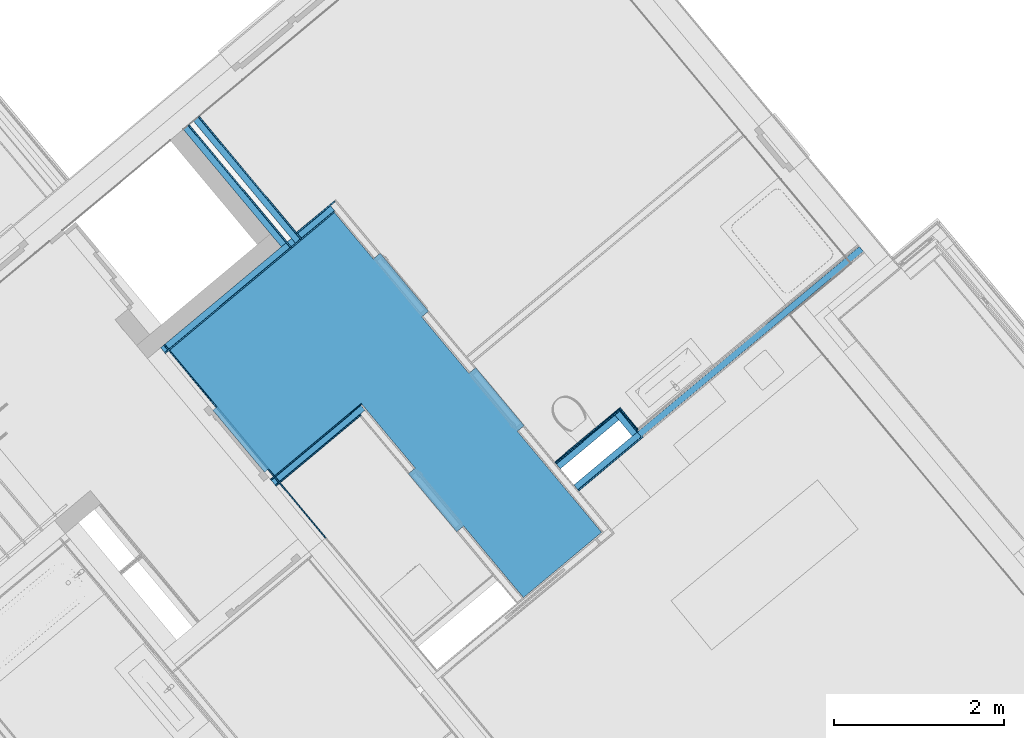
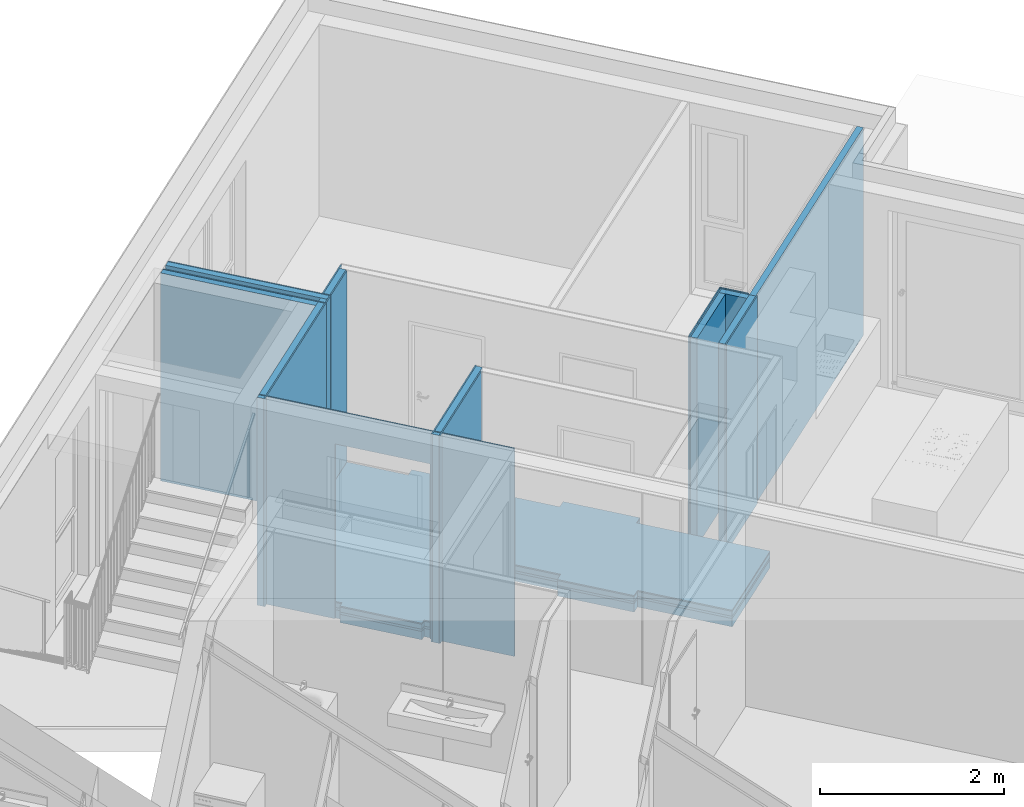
# One storey, part 33 of 50: 28 building element parts, 1 opening, 12 elements without a shape of their own.
"""IFC4 building model written with IfcOpenShell, lengths in metres."""

from ifc_helpers import new_model, entity, si_unit, converted_unit, derived_unit, direction, frame, origin_with_axes, place, context, subcontext, project, spatial, polygons, material, type_object, element, aggregate, save


model = new_model("IFC4")

# Units and contexts
model_context = context("Model", 3, precision=1e-05, world=origin_with_axes(), true_north=direction((0.0, 1.0)))
body_context = subcontext(model_context, "Body", "Model", "MODEL_VIEW")
ifc_project = project(units=[si_unit("LENGTHUNIT", "METRE"), si_unit("AREAUNIT", "SQUARE_METRE"), si_unit("VOLUMEUNIT", "CUBIC_METRE"), converted_unit("PLANEANGLEUNIT", "DEGREE", entity("IfcPlaneAngleMeasure", 0.0174532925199), si_unit("PLANEANGLEUNIT", "RADIAN"), dimensions=[0, 0, 0, 0, 0, 0, 0]), converted_unit("TIMEUNIT", "Year", entity("IfcTimeMeasure", 31556926.0), si_unit("TIMEUNIT", "SECOND"), dimensions=[0, 0, 1, 0, 0, 0, 0]), si_unit("MASSUNIT", "GRAM", prefix="KILO"), si_unit("THERMODYNAMICTEMPERATUREUNIT", "DEGREE_CELSIUS"), si_unit("LUMINOUSINTENSITYUNIT", "LUMEN"), si_unit("ENERGYUNIT", "JOULE", prefix="MEGA"), derived_unit("THERMALCONDUCTANCEUNIT", [(si_unit("POWERUNIT", "WATT"), 1), (si_unit("LENGTHUNIT", "METRE"), -1), (si_unit("THERMODYNAMICTEMPERATUREUNIT", "KELVIN"), -1)]), derived_unit("SPECIFICHEATCAPACITYUNIT", [(si_unit("ENERGYUNIT", "JOULE"), 1), (si_unit("MASSUNIT", "GRAM", prefix="KILO"), -1), (si_unit("THERMODYNAMICTEMPERATUREUNIT", "KELVIN"), -1)]), derived_unit("MASSDENSITYUNIT", [(si_unit("MASSUNIT", "GRAM", prefix="KILO"), 1), (si_unit("VOLUMEUNIT", "CUBIC_METRE"), -1)])], contexts=[model_context])

# Site, building, storey
site_placement = place(None, frame((-0.00153261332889, -0.00661245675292, 0.0), z_axis=(0.0, 0.0, 1.0), x_axis=(1.0, 0.0, 0.0)))
site = spatial("IfcSite", under=ifc_project, at=site_placement, Name="Site", CompositionType="ELEMENT")
building_placement = place(site_placement, origin_with_axes())
building = spatial("IfcBuilding", under=site, at=building_placement, Name="Building", CompositionType="ELEMENT")
storey_placement = place(building_placement, frame((0.0, 0.0, 2.74), z_axis=(0.0, 0.0, 1.0), x_axis=(1.0, 0.0, 0.0)))
storey = spatial("IfcBuildingStorey", under=building, at=storey_placement, Name="OG1", CompositionType="ELEMENT", Elevation=2.74)

# Wall, building element parts
wall_type_1 = type_object("IfcWallType", Name="LB 10,5 cm doppelte Vorsatzschale Bad 105", PredefinedType="NOTDEFINED")
wall_1_placement = place(storey_placement, frame((6.81308887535, 23.8632838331, 0.0), z_axis=(0.0, 0.0, 1.0), x_axis=(0.639370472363, -0.768898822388, 0.0)))
wall_1 = element("IfcWall", 1, at=wall_1_placement, inside=storey, type_object=wall_type_1, Name="Wand-004", PredefinedType="NOTDEFINED")
ifc_material_1 = material(Name="Gipskarton")
building_element_part_1_placement = place(wall_1_placement, origin_with_axes())
building_element_part_1 = element("IfcBuildingElementPart", 2, at=building_element_part_1_placement, material=ifc_material_1, Name="Gipskarton", PredefinedType="NOTDEFINED", context=body_context, shape_type="Tessellation", body=[
    polygons([(0.338014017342, 0.09, 0.0), (0.0, 0.09, 0.0), (0.0, 0.105, 0.0), (0.337978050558, 0.105, 0.0), (0.338014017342, 0.09, 2.76), (0.0, 0.09, 2.76), (0.0, 0.105, 2.76), (0.337978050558, 0.105, 2.76)], [[[1, 2, 3, 4]], [[5, 6, 2, 1]], [[3, 2, 6, 7]], [[4, 3, 7, 8]], [[4, 8, 5, 1]], [[8, 7, 6, 5]]], closed=True),
])
building_element_part_2_placement = place(wall_1_placement, origin_with_axes())
building_element_part_2 = element("IfcBuildingElementPart", 3, at=building_element_part_2_placement, material=ifc_material_1, Name="Gipskarton", PredefinedType="NOTDEFINED", context=body_context, shape_type="Tessellation", body=[
    polygons([(0.353050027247, 0.075, 0.0), (0.0, 0.075, 0.0), (0.0, 0.09, 0.0), (0.353014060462, 0.09, 0.0), (0.353050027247, 0.075, 2.76), (0.0, 0.075, 2.76), (0.0, 0.09, 2.76), (0.353014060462, 0.09, 2.76)], [[[1, 2, 3, 4]], [[5, 6, 2, 1]], [[3, 2, 6, 7]], [[4, 3, 7, 8]], [[4, 8, 5, 1]], [[8, 7, 6, 5]]], closed=True),
])
ifc_material_2 = material(Name="Mineralwolle weich")
building_element_part_3_placement = place(wall_1_placement, origin_with_axes())
building_element_part_3 = element("IfcBuildingElementPart", 4, at=building_element_part_3_placement, material=ifc_material_2, Name="Mineralwolle weich", PredefinedType="NOTDEFINED", context=body_context, shape_type="Tessellation", body=[
    polygons([(0.353050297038, 0.075, 0.0), (0.353229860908, 0.0, 0.0), (0.030000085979, 0.0, 0.0), (0.0298205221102, 0.075, 0.0), (0.353050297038, 0.075, 2.76), (0.353229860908, 0.0, 2.76), (0.030000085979, 0.0, 2.76), (0.0298205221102, 0.075, 2.76)], [[[1, 2, 3, 4]], [[2, 1, 5, 6]], [[2, 6, 7, 3]], [[8, 4, 3, 7]], [[5, 1, 4, 8]], [[6, 5, 8, 7]]], closed=True),
])
aggregate(wall_1, [building_element_part_1, building_element_part_2, building_element_part_3])

wall_type_2 = type_object("IfcWallType", Name="IW LB 01 Leichtbautrennwand einfach 10,5 cm 105", PredefinedType="NOTDEFINED")
wall_2_placement = place(storey_placement, frame((3.02017821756, 25.9291230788, 0.0), z_axis=(0.0, 0.0, 1.0), x_axis=(0.767365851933, 0.641209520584, 0.0)))
wall_2 = element("IfcWall", 5, at=wall_2_placement, inside=storey, type_object=wall_type_2, Name="Wand-012", PredefinedType="NOTDEFINED")
building_element_part_4_placement = place(wall_2_placement, origin_with_axes())
building_element_part_4 = element("IfcBuildingElementPart", 6, at=building_element_part_4_placement, material=ifc_material_1, Name="Gipskarton", PredefinedType="NOTDEFINED", context=body_context, shape_type="Tessellation", body=[
    polygons([(0.673687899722, 0.0, 2.76), (0.0900000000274, 0.0, 2.76), (0.0900000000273, -0.015, 2.76), (0.673687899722, -0.015, 2.76), (0.673687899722, 0.0, 0.0), (0.0900000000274, 0.0, 0.0), (0.0900000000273, -0.015, 0.0), (0.673687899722, -0.015, 0.0)], [[[1, 2, 3, 4]], [[5, 6, 2, 1]], [[3, 2, 6, 7]], [[4, 3, 7, 8]], [[4, 8, 5, 1]], [[8, 7, 6, 5]]], closed=True),
])
building_element_part_5_placement = place(wall_2_placement, origin_with_axes())
building_element_part_5 = element("IfcBuildingElementPart", 7, at=building_element_part_5_placement, material=ifc_material_2, Name="Mineralwolle weich", PredefinedType="NOTDEFINED", context=body_context, shape_type="Tessellation", body=[
    polygons([(0.598687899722, -0.015, 2.76), (0.0900000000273, -0.015, 2.76), (0.090000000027, -0.09, 2.76), (0.598687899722, -0.09, 2.76), (0.598687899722, -0.015, 0.0), (0.0900000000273, -0.015, 0.0), (0.090000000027, -0.09, 0.0), (0.598687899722, -0.09, 0.0)], [[[1, 2, 3, 4]], [[5, 6, 2, 1]], [[3, 2, 6, 7]], [[4, 3, 7, 8]], [[4, 8, 5, 1]], [[8, 7, 6, 5]]], closed=True),
])
building_element_part_6_placement = place(wall_2_placement, origin_with_axes())
building_element_part_6 = element("IfcBuildingElementPart", 8, at=building_element_part_6_placement, material=ifc_material_1, Name="Gipskarton", PredefinedType="NOTDEFINED", context=body_context, shape_type="Tessellation", body=[
    polygons([(0.583687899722, -0.09, 2.76), (0.090000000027, -0.09, 2.76), (0.0900000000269, -0.105, 2.76), (0.583687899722, -0.105, 2.76), (0.583687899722, -0.09, 0.0), (0.090000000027, -0.09, 0.0), (0.0900000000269, -0.105, 0.0), (0.583687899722, -0.105, 0.0)], [[[1, 2, 3, 4]], [[5, 6, 2, 1]], [[3, 2, 6, 7]], [[4, 3, 7, 8]], [[4, 8, 5, 1]], [[8, 7, 6, 5]]], closed=True),
])
aggregate(wall_2, [building_element_part_4, building_element_part_5, building_element_part_6])

wall_3_placement = place(storey_placement, frame((2.84969161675, 23.0041117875, 0.0), z_axis=(0.0, 0.0, 1.0), x_axis=(0.767365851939, 0.641209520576, 0.0)))
wall_3 = element("IfcWall", 9, at=wall_3_placement, inside=storey, type_object=wall_type_2, Name="Wand-012", PredefinedType="NOTDEFINED")
building_element_part_7_placement = place(wall_3_placement, origin_with_axes())
building_element_part_7 = element("IfcBuildingElementPart", 10, at=building_element_part_7_placement, material=ifc_material_1, Name="Gipskarton", PredefinedType="NOTDEFINED", context=body_context, shape_type="Tessellation", body=[
    polygons([(1.3909877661, 0.09, 0.0), (0.0, 0.09, 0.0), (0.0, 0.105, 0.0), (1.3909877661, 0.105, 0.0), (1.3909877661, 0.09, 2.76), (0.0, 0.09, 2.76), (0.0, 0.105, 2.76), (1.3909877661, 0.105, 2.76)], [[[1, 2, 3, 4]], [[5, 6, 2, 1]], [[3, 2, 6, 7]], [[4, 3, 7, 8]], [[4, 8, 5, 1]], [[8, 7, 6, 5]]], closed=True),
])
building_element_part_8_placement = place(wall_3_placement, origin_with_axes())
building_element_part_8 = element("IfcBuildingElementPart", 11, at=building_element_part_8_placement, material=ifc_material_2, Name="Mineralwolle weich", PredefinedType="NOTDEFINED", context=body_context, shape_type="Tessellation", body=[
    polygons([(1.3759877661, 0.015, 0.0), (0.0, 0.015, 0.0), (0.0, 0.09, 0.0), (1.3759877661, 0.09, 0.0), (1.3759877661, 0.015, 2.76), (0.0, 0.015, 2.76), (0.0, 0.09, 2.76), (1.3759877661, 0.09, 2.76)], [[[1, 2, 3, 4]], [[5, 6, 2, 1]], [[3, 2, 6, 7]], [[4, 3, 7, 8]], [[4, 8, 5, 1]], [[8, 7, 6, 5]]], closed=True),
])
building_element_part_9_placement = place(wall_3_placement, origin_with_axes())
building_element_part_9 = element("IfcBuildingElementPart", 12, at=building_element_part_9_placement, material=ifc_material_1, Name="Gipskarton", PredefinedType="NOTDEFINED", context=body_context, shape_type="Tessellation", body=[
    polygons([(1.3009877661, 0.0, 0.0), (0.0, 0.0, 0.0), (0.0, 0.015, 0.0), (1.3009877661, 0.015, 0.0), (1.3009877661, 0.0, 2.76), (0.0, 0.0, 2.76), (0.0, 0.015, 2.76), (1.3009877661, 0.015, 2.76)], [[[1, 2, 3, 4]], [[5, 6, 2, 1]], [[3, 2, 6, 7]], [[4, 3, 7, 8]], [[4, 8, 5, 1]], [[8, 7, 6, 5]]], closed=True),
])
aggregate(wall_3, [building_element_part_7, building_element_part_8, building_element_part_9])

# Wall, opening, building element part
wall_type_3 = type_object("IfcWallType", Name="LB 6,5 cm einfach Vorsatzschale + STB 265", PredefinedType="NOTDEFINED")
wall_4_placement = place(storey_placement, frame((3.23525110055, 22.2301615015, 0.0), z_axis=(0.0, 0.0, 1.0), x_axis=(-0.640845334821, 0.767670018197, 0.0)))
wall_4 = element("IfcWall", 13, at=wall_4_placement, inside=storey, type_object=wall_type_3, Name="Wand-003", PredefinedType="NOTDEFINED")
opening_placement = place(wall_4_placement, frame((1.52746867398, 0.0, 0.22), z_axis=(0.0, 0.0, 1.0), x_axis=(1.0, 0.0, 0.0)))
element("IfcOpeningElement", 14, at=opening_placement, cuts=wall_4, Name="Tür-001", context=body_context, identifier="Reference", shape_type="Tessellation", body=[
    polygons([(-0.55, -0.125, -0.22), (-0.55, -0.125, 2.1), (-0.55, 1.45785876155, 2.1), (-0.55, 1.45785876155, -0.22), (-0.55, -1.72285876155, -0.22), (-0.55, -1.72285876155, 2.1), (0.55, -0.125, 2.1), (0.55, 1.45785876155, 2.1), (0.55, 1.45785876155, -0.22), (0.55, -0.125, -0.22), (0.55, -1.72285876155, -0.22), (0.55, -1.72285876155, 2.1)], [[[1, 2, 3, 4]], [[2, 1, 5, 6]], [[2, 7, 8, 3]], [[8, 9, 4, 3]], [[10, 1, 4, 9]], [[1, 10, 11, 5]], [[6, 5, 11, 12]], [[7, 2, 6, 12]], [[7, 10, 9, 8]], [[10, 7, 12, 11]]], closed=True),
])
building_element_part_10_placement = place(wall_4_placement, origin_with_axes())
building_element_part_10 = element("IfcBuildingElementPart", 15, at=building_element_part_10_placement, material=ifc_material_1, Name="Gipskarton", PredefinedType="NOTDEFINED", context=body_context, shape_type="Tessellation", body=[
    polygons([(2.07746867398, -0.264999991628, 2.32), (2.07746867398, -0.264999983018, 0.0), (2.9613493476, -0.265, 0.0), (2.9613493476, -0.265, 2.76), (0.0, -0.265, 2.76), (0.0, -0.265, 0.0), (0.977468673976, -0.264999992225, 0.0), (0.977468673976, -0.264999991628, 2.32), (2.07746867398, -0.25, 2.32), (2.07746867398, -0.25, 0.0), (2.9613493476, -0.25, 0.0), (2.9613493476, -0.25, 2.76), (0.0, -0.25, 2.76), (0.0, -0.25, 0.0), (0.977468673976, -0.25, 0.0), (0.977468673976, -0.25, 2.32)], [[[1, 2, 3, 4, 5, 6, 7, 8]], [[2, 1, 9, 10]], [[2, 10, 11, 3]], [[4, 3, 11, 12]], [[4, 12, 13, 5]], [[5, 13, 14, 6]], [[15, 7, 6, 14]], [[8, 7, 15, 16]], [[1, 8, 16, 9]], [[16, 15, 14, 13, 12, 11, 10, 9]]], closed=True),
])
aggregate(wall_4, [building_element_part_10])

# Wall, building element parts
wall_type_4 = type_object("IfcWallType", Name="LB 9,0 cm einfache Vorsatzschale  90", PredefinedType="NOTDEFINED")
wall_5_placement = place(storey_placement, frame((2.91105147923, 25.8183705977, 0.0), z_axis=(0.0, 0.0, 1.0), x_axis=(-0.641215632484, 0.767360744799, 0.0)))
wall_5 = element("IfcWall", 16, at=wall_5_placement, inside=storey, type_object=wall_type_4, Name="Wand-006", PredefinedType="NOTDEFINED")
building_element_part_11_placement = place(wall_5_placement, origin_with_axes())
building_element_part_11 = element("IfcBuildingElementPart", 17, at=building_element_part_11_placement, material=ifc_material_2, Name="Mineralwolle weich", PredefinedType="NOTDEFINED", context=body_context, shape_type="Tessellation", body=[
    polygons([(1.79614424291, 0.0, 2.76), (0.0, 0.0, 2.76), (6.98080551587e-07, -0.075, 2.76), (1.79614364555, -0.075, 2.76), (1.79614424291, 0.0, 0.0), (0.0, 0.0, 0.0), (6.98080551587e-07, -0.075, 0.0), (1.79614364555, -0.075, 0.0)], [[[1, 2, 3, 4]], [[5, 6, 2, 1]], [[3, 2, 6, 7]], [[4, 3, 7, 8]], [[4, 8, 5, 1]], [[8, 7, 6, 5]]], closed=True),
])
building_element_part_12_placement = place(wall_5_placement, origin_with_axes())
building_element_part_12 = element("IfcBuildingElementPart", 18, at=building_element_part_12_placement, material=ifc_material_1, Name="Gipskarton", PredefinedType="NOTDEFINED", context=body_context, shape_type="Tessellation", body=[
    polygons([(1.79614364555, -0.075, 2.76), (-0.0749993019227, -0.075, 2.76), (-0.0749991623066, -0.09, 2.76), (1.79614352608, -0.09, 2.76), (1.79614364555, -0.075, 0.0), (-0.0749993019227, -0.075, 0.0), (-0.0749991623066, -0.09, 0.0), (1.79614352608, -0.09, 0.0)], [[[1, 2, 3, 4]], [[5, 6, 2, 1]], [[3, 2, 6, 7]], [[4, 3, 7, 8]], [[4, 8, 5, 1]], [[8, 7, 6, 5]]], closed=True),
])
aggregate(wall_5, [building_element_part_11, building_element_part_12])

wall_6_placement = place(storey_placement, frame((1.49097783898, 24.6317179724, 0.0), z_axis=(0.0, 0.0, 1.0), x_axis=(0.767354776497, 0.641222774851, 0.0)))
wall_6 = element("IfcWall", 19, at=wall_6_placement, inside=storey, type_object=wall_type_4, Name="Wand-006", PredefinedType="NOTDEFINED")
building_element_part_13_placement = place(wall_6_placement, origin_with_axes())
building_element_part_13 = element("IfcBuildingElementPart", 20, at=building_element_part_13_placement, material=ifc_material_2, Name="Mineralwolle weich", PredefinedType="NOTDEFINED", context=body_context, shape_type="Tessellation", body=[
    polygons([(1.92560898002, 0.0, 2.76), (0.0, 0.0, 2.76), (0.0, -0.075, 2.76), (1.92560828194, -0.075, 2.76), (1.92560898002, 0.0, 0.0), (0.0, 0.0, 0.0), (0.0, -0.075, 0.0), (1.92560828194, -0.075, 0.0)], [[[1, 2, 3, 4]], [[5, 6, 2, 1]], [[3, 2, 6, 7]], [[4, 3, 7, 8]], [[4, 8, 5, 1]], [[8, 7, 6, 5]]], closed=True),
])
building_element_part_14_placement = place(wall_6_placement, origin_with_axes())
building_element_part_14 = element("IfcBuildingElementPart", 21, at=building_element_part_14_placement, material=ifc_material_1, Name="Gipskarton", PredefinedType="NOTDEFINED", context=body_context, shape_type="Tessellation", body=[
    polygons([(1.94060828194, -0.075, 2.76), (0.0, -0.075, 2.76), (0.0, -0.09, 2.76), (1.94060814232, -0.09, 2.76), (1.94060828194, -0.075, 0.0), (0.0, -0.075, 0.0), (0.0, -0.09, 0.0), (1.94060814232, -0.09, 0.0)], [[[1, 2, 3, 4]], [[5, 6, 2, 1]], [[3, 2, 6, 7]], [[4, 3, 7, 8]], [[4, 8, 5, 1]], [[8, 7, 6, 5]]], closed=True),
])
aggregate(wall_6, [building_element_part_13, building_element_part_14])

wall_7_placement = place(storey_placement, frame((2.98011276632, 25.8760801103, 0.0), z_axis=(0.0, 0.0, 1.0), x_axis=(0.767354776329, 0.641222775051, 0.0)))
wall_7 = element("IfcWall", 22, at=wall_7_placement, inside=storey, type_object=wall_type_4, Name="Wand-006", PredefinedType="NOTDEFINED")
building_element_part_15_placement = place(wall_7_placement, origin_with_axes())
building_element_part_15 = element("IfcBuildingElementPart", 23, at=building_element_part_15_placement, material=ifc_material_2, Name="Mineralwolle weich", PredefinedType="NOTDEFINED", context=body_context, shape_type="Tessellation", body=[
    polygons([(0.0647565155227, 0.0, 2.76), (0.0, 0.0, 2.76), (0.0, -0.075, 2.76), (0.0647552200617, -0.075, 2.76), (0.0647565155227, 0.0, 0.0), (0.0, 0.0, 0.0), (0.0, -0.075, 0.0), (0.0647552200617, -0.075, 0.0)], [[[1, 2, 3, 4]], [[5, 6, 2, 1]], [[3, 2, 6, 7]], [[4, 3, 7, 8]], [[4, 8, 5, 1]], [[8, 7, 6, 5]]], closed=True),
])
building_element_part_16_placement = place(wall_7_placement, origin_with_axes())
building_element_part_16 = element("IfcBuildingElementPart", 24, at=building_element_part_16_placement, material=ifc_material_1, Name="Gipskarton", PredefinedType="NOTDEFINED", context=body_context, shape_type="Tessellation", body=[
    polygons([(0.139755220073, -0.075, 2.76), (0.0, -0.075, 2.76), (0.0, -0.09, 2.76), (0.139754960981, -0.09, 2.76), (0.139755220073, -0.075, 0.0), (0.0, -0.075, 0.0), (0.0, -0.09, 0.0), (0.139754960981, -0.09, 0.0)], [[[1, 2, 3, 4]], [[5, 6, 2, 1]], [[3, 2, 6, 7]], [[4, 3, 7, 8]], [[4, 8, 5, 1]], [[8, 7, 6, 5]]], closed=True),
])
aggregate(wall_7, [building_element_part_15, building_element_part_16])

wall_8_placement = place(storey_placement, frame((3.08751284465, 25.8485405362, 0.0), z_axis=(0.0, 0.0, 1.0), x_axis=(-0.64120952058, 0.767365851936, 0.0)))
wall_8 = element("IfcWall", 25, at=wall_8_placement, inside=storey, type_object=wall_type_4, Name="Wand-006", PredefinedType="NOTDEFINED")
building_element_part_17_placement = place(wall_8_placement, origin_with_axes())
building_element_part_17 = element("IfcBuildingElementPart", 26, at=building_element_part_17_placement, material=ifc_material_2, Name="Mineralwolle weich", PredefinedType="NOTDEFINED", context=body_context, shape_type="Tessellation", body=[
    polygons([(1.8861415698, -0.075, 2.76), (1.8861415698, 0.0, 2.76), (0.0149999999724, 0.0, 2.76), (0.0150012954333, -0.075, 2.76), (1.8861415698, -0.075, 0.0), (1.8861415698, 0.0, 0.0), (0.0149999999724, 0.0, 0.0), (0.0150012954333, -0.075, 0.0)], [[[1, 2, 3, 4]], [[2, 1, 5, 6]], [[2, 6, 7, 3]], [[8, 4, 3, 7]], [[5, 1, 4, 8]], [[6, 5, 8, 7]]], closed=True),
])
building_element_part_18_placement = place(wall_8_placement, origin_with_axes())
building_element_part_18 = element("IfcBuildingElementPart", 27, at=building_element_part_18_placement, material=ifc_material_1, Name="Gipskarton", PredefinedType="NOTDEFINED", context=body_context, shape_type="Tessellation", body=[
    polygons([(1.8861415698, -0.075, 2.76), (0.0, -0.075, 2.76), (0.0, -0.09, 2.76), (1.8861415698, -0.09, 2.76), (1.8861415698, -0.075, 0.0), (0.0, -0.075, 0.0), (0.0, -0.09, 0.0), (1.8861415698, -0.09, 0.0)], [[[1, 2, 3, 4]], [[5, 6, 2, 1]], [[3, 2, 6, 7]], [[4, 3, 7, 8]], [[4, 8, 5, 1]], [[8, 7, 6, 5]]], closed=True),
])
aggregate(wall_8, [building_element_part_17, building_element_part_18])

wall_9_placement = place(storey_placement, frame((6.35108165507, 23.0169179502, 0.0), z_axis=(0.0, 0.0, 1.0), x_axis=(0.767365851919, 0.641209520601, 0.0)))
wall_9 = element("IfcWall", 28, at=wall_9_placement, inside=storey, type_object=wall_type_4, Name="Wand-006", PredefinedType="NOTDEFINED")
building_element_part_19_placement = place(wall_9_placement, origin_with_axes())
building_element_part_19 = element("IfcBuildingElementPart", 29, at=building_element_part_19_placement, material=ifc_material_2, Name="Mineralwolle weich", PredefinedType="NOTDEFINED", context=body_context, shape_type="Tessellation", body=[
    polygons([(0.971380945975, 0.0, 2.76), (0.0, 0.0, 2.76), (0.0, -0.075, 2.76), (0.971201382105, -0.075, 2.76), (0.971380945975, 0.0, 0.0), (0.0, 0.0, 0.0), (0.0, -0.075, 0.0), (0.971201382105, -0.075, 0.0)], [[[1, 2, 3, 4]], [[5, 6, 2, 1]], [[3, 2, 6, 7]], [[4, 3, 7, 8]], [[4, 8, 5, 1]], [[8, 7, 6, 5]]], closed=True),
])
building_element_part_20_placement = place(wall_9_placement, origin_with_axes())
building_element_part_20 = element("IfcBuildingElementPart", 30, at=building_element_part_20_placement, material=ifc_material_1, Name="Gipskarton", PredefinedType="NOTDEFINED", context=body_context, shape_type="Tessellation", body=[
    polygons([(0.986201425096, -0.075, 2.76), (0.0, -0.075, 2.76), (0.0, -0.09, 2.76), (0.986165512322, -0.09, 2.76), (0.986201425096, -0.075, 0.0), (0.0, -0.075, 0.0), (0.0, -0.09, 0.0), (0.986165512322, -0.09, 0.0)], [[[1, 2, 3, 4]], [[5, 6, 2, 1]], [[3, 2, 6, 7]], [[4, 3, 7, 8]], [[4, 8, 5, 1]], [[8, 7, 6, 5]]], closed=True),
])
aggregate(wall_9, [building_element_part_19, building_element_part_20])

wall_10_placement = place(storey_placement, frame((6.19191495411, 23.207400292, 0.0), z_axis=(0.0, 0.0, 1.0), x_axis=(0.767365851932, 0.641209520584, 0.0)))
wall_10 = element("IfcWall", 31, at=wall_10_placement, inside=storey, type_object=wall_type_1, Name="Wand-004", PredefinedType="NOTDEFINED")
building_element_part_21_placement = place(wall_10_placement, origin_with_axes())
building_element_part_21 = element("IfcBuildingElementPart", 32, at=building_element_part_21_placement, material=ifc_material_1, Name="Gipskarton", PredefinedType="NOTDEFINED", context=body_context, shape_type="Tessellation", body=[
    polygons([(1.00222642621, 0.10487431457, 0.0), (1.00222642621, 0.09, 0.0), (1.00219081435, 0.09, 0.0), (1.00222642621, 0.10487431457, 2.76), (1.00222642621, 0.09, 2.76), (1.00219081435, 0.09, 2.76)], [[[1, 2, 3]], [[4, 5, 2, 1]], [[2, 5, 6, 3]], [[1, 3, 6, 4]], [[5, 4, 6]]], closed=True),
    polygons([(0.972190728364, 0.09, 0.0), (0.0, 0.09, 0.0), (0.0, 0.105, 0.0), (0.972226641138, 0.105, 0.0), (0.972190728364, 0.09, 2.76), (0.0, 0.09, 2.76), (0.0, 0.105, 2.76), (0.972226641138, 0.105, 2.76)], [[[1, 2, 3, 4]], [[5, 6, 2, 1]], [[3, 2, 6, 7]], [[4, 3, 7, 8]], [[4, 8, 5, 1]], [[8, 7, 6, 5]]], closed=True),
])
building_element_part_22_placement = place(wall_10_placement, origin_with_axes())
building_element_part_22 = element("IfcBuildingElementPart", 33, at=building_element_part_22_placement, material=ifc_material_1, Name="Gipskarton", PredefinedType="NOTDEFINED", context=body_context, shape_type="Tessellation", body=[
    polygons([(1.00222642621, 0.09, 0.0), (1.00222642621, 0.075, 0.0), (1.00215490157, 0.075, 0.0), (1.00219081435, 0.09, 0.0), (1.00222642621, 0.09, 2.76), (1.00222642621, 0.075, 2.76), (1.00215490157, 0.075, 2.76), (1.00219081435, 0.09, 2.76)], [[[1, 2, 3, 4]], [[1, 5, 6, 2]], [[2, 6, 7, 3]], [[4, 3, 7, 8]], [[5, 1, 4, 8]], [[6, 5, 8, 7]]], closed=True),
    polygons([(0.97215481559, 0.075, 0.0), (0.0, 0.075, 0.0), (0.0, 0.09, 0.0), (0.972190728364, 0.09, 0.0), (0.97215481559, 0.075, 2.76), (0.0, 0.075, 2.76), (0.0, 0.09, 2.76), (0.972190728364, 0.09, 2.76)], [[[1, 2, 3, 4]], [[5, 6, 2, 1]], [[3, 2, 6, 7]], [[4, 3, 7, 8]], [[4, 8, 5, 1]], [[8, 7, 6, 5]]], closed=True),
])
building_element_part_23_placement = place(wall_10_placement, origin_with_axes())
building_element_part_23 = element("IfcBuildingElementPart", 34, at=building_element_part_23_placement, material=ifc_material_2, Name="Mineralwolle weich", PredefinedType="NOTDEFINED", context=body_context, shape_type="Tessellation", body=[
    polygons([(1.00197533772, 0.0, 0.22), (1.00222642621, 0.0, 0.22), (1.00222642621, 0.0, 2.76), (1.0019753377, 0.0, 2.76), (1.00222642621, 0.075, 0.22), (1.00215490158, 0.075, 0.22), (1.00222642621, 0.075, 2.76), (1.00215490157, 0.075, 2.76)], [[[1, 2, 3, 4]], [[5, 2, 1, 6]], [[2, 5, 7, 3]], [[4, 3, 7, 8]], [[6, 1, 4, 8]], [[5, 6, 8, 7]]], closed=True),
    polygons([(0.897154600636, 0.075, 0.0), (0.896975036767, 0.0, 0.0), (0.0, 0.0, 0.0), (0.0, 0.075, 0.0), (0.897154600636, 0.075, 2.76), (0.896975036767, 0.0, 2.76), (0.0, 0.0, 2.76), (0.0, 0.075, 2.76)], [[[1, 2, 3, 4]], [[2, 1, 5, 6]], [[2, 6, 7, 3]], [[8, 4, 3, 7]], [[5, 1, 4, 8]], [[6, 5, 8, 7]]], closed=True),
])
aggregate(wall_10, [building_element_part_21, building_element_part_22, building_element_part_23])

# Wall, building element part
wall_type_5 = type_object("IfcWallType", Name="LB 13 cm doppelte Vorsatzschale Bad  120", PredefinedType="NOTDEFINED")
wall_11_placement = place(storey_placement, frame((7.01975244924, 23.6147528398, 0.0), z_axis=(0.0, 0.0, 1.0), x_axis=(0.767363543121, 0.641212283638, 0.0)))
wall_11 = element("IfcWall", 35, at=wall_11_placement, inside=storey, type_object=wall_type_5, Name="Wand-013", PredefinedType="NOTDEFINED")
building_element_part_24_placement = place(wall_11_placement, origin_with_axes())
building_element_part_24 = element("IfcBuildingElementPart", 36, at=building_element_part_24_placement, material=ifc_material_2, Name="Mineralwolle weich", PredefinedType="NOTDEFINED", context=body_context, shape_type="Tessellation", body=[
    polygons([(3.47843714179, -0.03, 0.0), (3.47843714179, -0.105, 0.0), (0.0747484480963, -0.105, 0.0), (0.0749282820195, -0.03, 0.0), (3.47843714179, -0.03, 2.76), (3.47843714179, -0.105, 2.76), (0.0747484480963, -0.105, 2.76), (0.0749282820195, -0.03, 2.76)], [[[1, 2, 3, 4]], [[1, 5, 6, 2]], [[2, 6, 7, 3]], [[4, 3, 7, 8]], [[5, 1, 4, 8]], [[6, 5, 8, 7]]], closed=True),
])
aggregate(wall_11, [building_element_part_24])

# Covering, building element parts
covering_type = type_object("IfcCoveringType", Name="DE 01 Decke Wohnung/Wohnung Fließen 220", PredefinedType="NOTDEFINED")
covering_placement = place(storey_placement, frame((3.53540854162, 26.2228144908, 0.22), z_axis=(0.0, 0.0, 1.0), x_axis=(1.0, 0.0, 0.0)))
covering = element("IfcCovering", 37, at=covering_placement, inside=storey, type_object=covering_type, Name="Decke-001", PredefinedType="NOTDEFINED")
ifc_material_3 = material(Name="Fliesen")
building_element_part_25_placement = place(covering_placement, origin_with_axes())
building_element_part_25 = element("IfcBuildingElementPart", 38, at=building_element_part_25_placement, material=ifc_material_3, Name="Fliesen", PredefinedType="NOTDEFINED", context=body_context, shape_type="Tessellation", body=[
    polygons([(0.0, 0.0, -0.015), (-1.93687654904, -1.61850734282, -0.015), (-1.93687654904, -1.61850734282, 0.0), (0.0, 0.0, 0.0), (0.456545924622, -0.546370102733, -0.015), (0.53711933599, -0.479043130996, -0.015), (1.10779579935, -1.16199873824, -0.015), (1.02722238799, -1.22932570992, -0.015), (1.58063062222, -1.89161567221, -0.015), (1.66120403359, -1.8242886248, -0.015), (2.23188049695, -2.50724423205, -0.015), (2.15130708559, -2.57457127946, -0.015), (3.1432594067, -3.76168765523, -0.015), (2.22264850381, -4.52996639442, -0.015), (1.5196247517, -3.68862254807, -0.015), (1.43905209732, -3.75594898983, -0.015), (0.86837563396, -3.07299338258, -0.015), (0.948949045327, -3.00566633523, -0.015), (0.314352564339, -2.24621466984, -0.015), (-0.703126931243, -3.09641874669, -0.015), (-0.771194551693, -3.01488031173, -0.015), (-0.821093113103, -3.05653529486, -0.015), (-1.4298961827, -2.32724879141, -0.015), (-1.37999762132, -2.28559380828, -0.015), (-1.37999762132, -2.28559380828, 0.0), (0.456545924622, -0.546370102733, 0.0), (-1.4298961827, -2.32724879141, 0.0), (-0.821093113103, -3.05653529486, 0.0), (-0.771194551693, -3.01488031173, 0.0), (-0.703126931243, -3.09641874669, 0.0), (0.314352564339, -2.24621466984, 0.0), (0.948949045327, -3.00566633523, 0.0), (0.86837563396, -3.07299338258, 0.0), (1.43905209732, -3.75594898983, 0.0), (1.5196247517, -3.68862254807, 0.0), (2.22264850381, -4.52996639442, 0.0), (3.1432594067, -3.76168765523, 0.0), (2.15130708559, -2.57457127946, 0.0), (2.23188049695, -2.50724423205, 0.0), (1.66120403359, -1.8242886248, 0.0), (1.58063062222, -1.89161567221, 0.0), (1.02722238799, -1.22932570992, 0.0), (1.10779579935, -1.16199873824, 0.0), (0.53711933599, -0.479043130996, 0.0)], [[[1, 2, 3, 4]], [[2, 1, 5, 6, 7, 8, 9, 10, 11, 12, 13, 14, 15, 16, 17, 18, 19, 20, 21, 22, 23, 24]], [[2, 24, 25, 3]], [[26, 4, 3, 25, 27, 28, 29, 30, 31, 32, 33, 34, 35, 36, 37, 38, 39, 40, 41, 42, 43, 44]], [[5, 1, 4, 26]], [[6, 5, 26, 44]], [[7, 6, 44, 43]], [[8, 7, 43, 42]], [[9, 8, 42, 41]], [[10, 9, 41, 40]], [[11, 10, 40, 39]], [[12, 11, 39, 38]], [[13, 12, 38, 37]], [[14, 13, 37, 36]], [[15, 14, 36, 35]], [[16, 15, 35, 34]], [[17, 16, 34, 33]], [[18, 17, 33, 32]], [[19, 18, 32, 31]], [[20, 19, 31, 30]], [[21, 20, 30, 29]], [[22, 21, 29, 28]], [[23, 22, 28, 27]], [[24, 23, 27, 25]]], closed=True),
])
ifc_material_4 = material(Name="Estrich")
building_element_part_26_placement = place(covering_placement, origin_with_axes())
building_element_part_26 = element("IfcBuildingElementPart", 39, at=building_element_part_26_placement, material=ifc_material_4, Name="Estrich", PredefinedType="NOTDEFINED", context=body_context, shape_type="Tessellation", body=[
    polygons([(0.0, 0.0, -0.08), (-1.93687654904, -1.61850734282, -0.08), (-1.93687654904, -1.61850734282, -0.015), (0.0, 0.0, -0.015), (0.456545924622, -0.546370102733, -0.08), (0.53711933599, -0.479043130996, -0.08), (1.10779579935, -1.16199873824, -0.08), (1.02722238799, -1.22932570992, -0.08), (1.58063062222, -1.89161567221, -0.08), (1.66120403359, -1.8242886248, -0.08), (2.23188049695, -2.50724423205, -0.08), (2.15130708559, -2.57457127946, -0.08), (3.1432594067, -3.76168765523, -0.08), (2.22264850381, -4.52996639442, -0.08), (1.5196247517, -3.68862254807, -0.08), (1.43905209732, -3.75594898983, -0.08), (0.86837563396, -3.07299338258, -0.08), (0.948949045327, -3.00566633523, -0.08), (0.314352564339, -2.24621466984, -0.08), (-0.703126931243, -3.09641874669, -0.08), (-0.771194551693, -3.01488031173, -0.08), (-0.821093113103, -3.05653529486, -0.08), (-1.4298961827, -2.32724879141, -0.08), (-1.37999762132, -2.28559380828, -0.08), (-1.37999762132, -2.28559380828, -0.015), (0.456545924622, -0.546370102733, -0.015), (-1.4298961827, -2.32724879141, -0.015), (-0.821093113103, -3.05653529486, -0.015), (-0.771194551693, -3.01488031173, -0.015), (-0.703126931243, -3.09641874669, -0.015), (0.314352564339, -2.24621466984, -0.015), (0.948949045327, -3.00566633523, -0.015), (0.86837563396, -3.07299338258, -0.015), (1.43905209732, -3.75594898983, -0.015), (1.5196247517, -3.68862254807, -0.015), (2.22264850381, -4.52996639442, -0.015), (3.1432594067, -3.76168765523, -0.015), (2.15130708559, -2.57457127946, -0.015), (2.23188049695, -2.50724423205, -0.015), (1.66120403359, -1.8242886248, -0.015), (1.58063062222, -1.89161567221, -0.015), (1.02722238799, -1.22932570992, -0.015), (1.10779579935, -1.16199873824, -0.015), (0.53711933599, -0.479043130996, -0.015)], [[[1, 2, 3, 4]], [[2, 1, 5, 6, 7, 8, 9, 10, 11, 12, 13, 14, 15, 16, 17, 18, 19, 20, 21, 22, 23, 24]], [[2, 24, 25, 3]], [[26, 4, 3, 25, 27, 28, 29, 30, 31, 32, 33, 34, 35, 36, 37, 38, 39, 40, 41, 42, 43, 44]], [[5, 1, 4, 26]], [[6, 5, 26, 44]], [[7, 6, 44, 43]], [[8, 7, 43, 42]], [[9, 8, 42, 41]], [[10, 9, 41, 40]], [[11, 10, 40, 39]], [[12, 11, 39, 38]], [[13, 12, 38, 37]], [[14, 13, 37, 36]], [[15, 14, 36, 35]], [[16, 15, 35, 34]], [[17, 16, 34, 33]], [[18, 17, 33, 32]], [[19, 18, 32, 31]], [[20, 19, 31, 30]], [[21, 20, 30, 29]], [[22, 21, 29, 28]], [[23, 22, 28, 27]], [[24, 23, 27, 25]]], closed=True),
])
ifc_material_5 = material(Name="Trittschalldämmung")
building_element_part_27_placement = place(covering_placement, origin_with_axes())
building_element_part_27 = element("IfcBuildingElementPart", 40, at=building_element_part_27_placement, material=ifc_material_5, Name="Trittschalldämmung", PredefinedType="NOTDEFINED", context=body_context, shape_type="Tessellation", body=[
    polygons([(0.0, 0.0, -0.11), (-1.93687654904, -1.61850734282, -0.11), (-1.93687654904, -1.61850734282, -0.08), (0.0, 0.0, -0.08), (0.456545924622, -0.546370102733, -0.11), (0.53711933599, -0.479043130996, -0.11), (1.10779579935, -1.16199873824, -0.11), (1.02722238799, -1.22932570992, -0.11), (1.58063062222, -1.89161567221, -0.11), (1.66120403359, -1.8242886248, -0.11), (2.23188049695, -2.50724423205, -0.11), (2.15130708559, -2.57457127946, -0.11), (3.1432594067, -3.76168765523, -0.11), (2.22264850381, -4.52996639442, -0.11), (1.5196247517, -3.68862254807, -0.11), (1.43905209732, -3.75594898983, -0.11), (0.86837563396, -3.07299338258, -0.11), (0.948949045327, -3.00566633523, -0.11), (0.314352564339, -2.24621466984, -0.11), (-0.703126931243, -3.09641874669, -0.11), (-0.771194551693, -3.01488031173, -0.11), (-0.821093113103, -3.05653529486, -0.11), (-1.4298961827, -2.32724879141, -0.11), (-1.37999762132, -2.28559380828, -0.11), (-1.37999762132, -2.28559380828, -0.08), (0.456545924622, -0.546370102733, -0.08), (-1.4298961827, -2.32724879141, -0.08), (-0.821093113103, -3.05653529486, -0.08), (-0.771194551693, -3.01488031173, -0.08), (-0.703126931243, -3.09641874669, -0.08), (0.314352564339, -2.24621466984, -0.08), (0.948949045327, -3.00566633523, -0.08), (0.86837563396, -3.07299338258, -0.08), (1.43905209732, -3.75594898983, -0.08), (1.5196247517, -3.68862254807, -0.08), (2.22264850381, -4.52996639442, -0.08), (3.1432594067, -3.76168765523, -0.08), (2.15130708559, -2.57457127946, -0.08), (2.23188049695, -2.50724423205, -0.08), (1.66120403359, -1.8242886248, -0.08), (1.58063062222, -1.89161567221, -0.08), (1.02722238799, -1.22932570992, -0.08), (1.10779579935, -1.16199873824, -0.08), (0.53711933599, -0.479043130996, -0.08)], [[[1, 2, 3, 4]], [[2, 1, 5, 6, 7, 8, 9, 10, 11, 12, 13, 14, 15, 16, 17, 18, 19, 20, 21, 22, 23, 24]], [[2, 24, 25, 3]], [[26, 4, 3, 25, 27, 28, 29, 30, 31, 32, 33, 34, 35, 36, 37, 38, 39, 40, 41, 42, 43, 44]], [[5, 1, 4, 26]], [[6, 5, 26, 44]], [[7, 6, 44, 43]], [[8, 7, 43, 42]], [[9, 8, 42, 41]], [[10, 9, 41, 40]], [[11, 10, 40, 39]], [[12, 11, 39, 38]], [[13, 12, 38, 37]], [[14, 13, 37, 36]], [[15, 14, 36, 35]], [[16, 15, 35, 34]], [[17, 16, 34, 33]], [[18, 17, 33, 32]], [[19, 18, 32, 31]], [[20, 19, 31, 30]], [[21, 20, 30, 29]], [[22, 21, 29, 28]], [[23, 22, 28, 27]], [[24, 23, 27, 25]]], closed=True),
])
ifc_material_6 = material(Name="Schüttung")
building_element_part_28_placement = place(covering_placement, origin_with_axes())
building_element_part_28 = element("IfcBuildingElementPart", 41, at=building_element_part_28_placement, material=ifc_material_6, Name="Schüttung", PredefinedType="NOTDEFINED", context=body_context, shape_type="Tessellation", body=[
    polygons([(0.0, 0.0, -0.11), (0.0, 0.0, -0.22), (-1.93687654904, -1.61850734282, -0.22), (-1.93687654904, -1.61850734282, -0.11), (0.456545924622, -0.546370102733, -0.11), (0.456545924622, -0.546370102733, -0.22), (0.53711933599, -0.479043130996, -0.22), (1.10779579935, -1.16199873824, -0.22), (1.02722238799, -1.22932570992, -0.22), (1.58063062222, -1.89161567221, -0.22), (1.66120403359, -1.8242886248, -0.22), (2.23188049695, -2.50724423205, -0.22), (2.15130708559, -2.57457127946, -0.22), (3.1432594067, -3.76168765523, -0.22), (2.22264850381, -4.52996639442, -0.22), (1.5196247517, -3.68862254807, -0.22), (1.43905209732, -3.75594898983, -0.22), (0.86837563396, -3.07299338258, -0.22), (0.948949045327, -3.00566633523, -0.22), (0.314352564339, -2.24621466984, -0.22), (-0.703126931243, -3.09641874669, -0.22), (-0.771194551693, -3.01488031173, -0.22), (-0.821093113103, -3.05653529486, -0.22), (-1.4298961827, -2.32724879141, -0.22), (-1.37999762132, -2.28559380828, -0.22), (-1.37999762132, -2.28559380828, -0.11), (-1.4298961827, -2.32724879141, -0.11), (-0.821093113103, -3.05653529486, -0.11), (-0.771194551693, -3.01488031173, -0.11), (-0.703126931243, -3.09641874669, -0.11), (0.314352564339, -2.24621466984, -0.11), (0.948949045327, -3.00566633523, -0.11), (0.86837563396, -3.07299338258, -0.11), (1.43905209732, -3.75594898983, -0.11), (1.5196247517, -3.68862254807, -0.11), (2.22264850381, -4.52996639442, -0.11), (3.1432594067, -3.76168765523, -0.11), (2.15130708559, -2.57457127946, -0.11), (2.23188049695, -2.50724423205, -0.11), (1.66120403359, -1.8242886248, -0.11), (1.58063062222, -1.89161567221, -0.11), (1.02722238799, -1.22932570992, -0.11), (1.10779579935, -1.16199873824, -0.11), (0.53711933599, -0.479043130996, -0.11)], [[[1, 2, 3, 4]], [[5, 6, 2, 1]], [[3, 2, 6, 7, 8, 9, 10, 11, 12, 13, 14, 15, 16, 17, 18, 19, 20, 21, 22, 23, 24, 25]], [[4, 3, 25, 26]], [[5, 1, 4, 26, 27, 28, 29, 30, 31, 32, 33, 34, 35, 36, 37, 38, 39, 40, 41, 42, 43, 44]], [[44, 7, 6, 5]], [[43, 8, 7, 44]], [[42, 9, 8, 43]], [[41, 10, 9, 42]], [[40, 11, 10, 41]], [[39, 12, 11, 40]], [[38, 13, 12, 39]], [[37, 14, 13, 38]], [[36, 15, 14, 37]], [[35, 16, 15, 36]], [[34, 17, 16, 35]], [[33, 18, 17, 34]], [[32, 19, 18, 33]], [[31, 20, 19, 32]], [[30, 21, 20, 31]], [[29, 22, 21, 30]], [[28, 23, 22, 29]], [[27, 24, 23, 28]], [[26, 25, 24, 27]]], closed=True),
])
aggregate(covering, [building_element_part_25, building_element_part_26, building_element_part_27, building_element_part_28])

save(model, "model.ifc")
